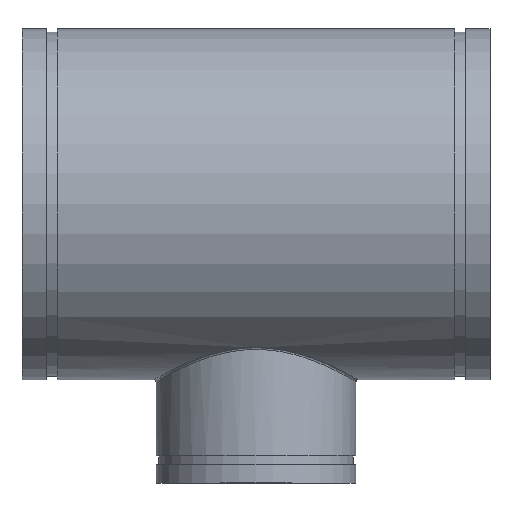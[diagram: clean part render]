
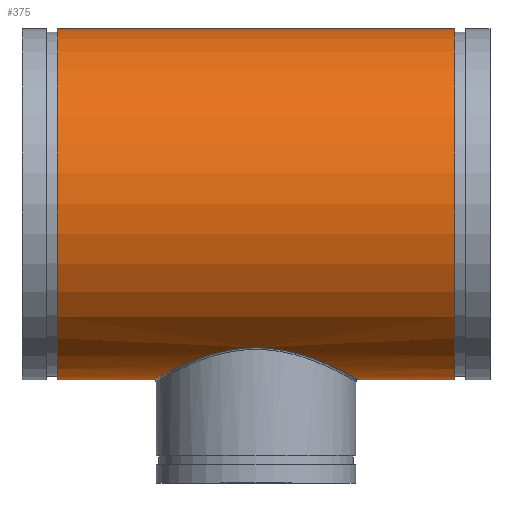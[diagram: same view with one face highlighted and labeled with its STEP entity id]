
A CAD part, top view. The second image highlights one B-rep face of the part: STEP entity #375.
In plain terms, the highlighted cylindrical face has radius 247.65 mm (diameter 495.3 mm), a full revolution.
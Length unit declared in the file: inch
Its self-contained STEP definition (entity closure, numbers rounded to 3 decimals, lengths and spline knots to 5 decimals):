
#54=FACE_BOUND('',#119,.T.);
#65=LINE('',#861,#76);
#76=VECTOR('',#483,9.75);
#87=CYLINDRICAL_SURFACE('',#415,9.75);
#98=FACE_OUTER_BOUND('',#118,.T.);
#118=EDGE_LOOP('',(#266,#267,#268,#269));
#119=EDGE_LOOP('',(#270));
#150=B_SPLINE_CURVE_WITH_KNOTS('',3,(#823,#824,#825,#826,#827,#828,#829,
#830,#831,#832,#833,#834,#835,#836,#837,#838,#839,#840,#841,#842,#843,#844,
#845,#846,#847,#848,#849,#850,#851,#852,#853,#854,#855,#856),
 .UNSPECIFIED.,.T.,.F.,(4,1,1,1,1,1,1,1,1,1,1,1,1,1,1,1,1,1,1,1,1,1,1,1,
1,1,1,1,1,1,1,4),(-87.32386,-84.20515,-81.08644,
-77.96773,-74.84902,-70.69074,-67.57203,
-66.53246,-64.45332,-62.37418,-58.21591,
-54.05763,-49.89935,-45.74107,-43.66193,
-41.58279,-39.50365,-37.42451,-33.26623,
-29.10795,-27.02881,-24.94967,-22.87053,
-21.83096,-21.31118,-20.79139,-16.63312,
-12.47484,-9.35613,-6.23742,-3.11871,
0.),.UNSPECIFIED.);
#154=CIRCLE('',#416,9.75);
#155=CIRCLE('',#417,9.75);
#182=VERTEX_POINT('',#781);
#185=VERTEX_POINT('',#858);
#186=VERTEX_POINT('',#860);
#219=EDGE_CURVE('',#182,#182,#150,.T.);
#220=EDGE_CURVE('',#185,#185,#154,.T.);
#221=EDGE_CURVE('',#185,#186,#65,.T.);
#222=EDGE_CURVE('',#186,#186,#155,.T.);
#266=ORIENTED_EDGE('',*,*,#220,.T.);
#267=ORIENTED_EDGE('',*,*,#221,.T.);
#268=ORIENTED_EDGE('',*,*,#222,.T.);
#269=ORIENTED_EDGE('',*,*,#221,.F.);
#270=ORIENTED_EDGE('',*,*,#219,.F.);
#375=ADVANCED_FACE('',(#98,#54),#87,.T.);
#415=AXIS2_PLACEMENT_3D('',#857,#479,#480);
#416=AXIS2_PLACEMENT_3D('',#859,#481,#482);
#417=AXIS2_PLACEMENT_3D('',#862,#484,#485);
#479=DIRECTION('center_axis',(-1.,0.,0.));
#480=DIRECTION('ref_axis',(0.,-1.,0.));
#481=DIRECTION('center_axis',(1.,0.,0.));
#482=DIRECTION('ref_axis',(0.,-1.,0.));
#483=DIRECTION('',(1.,0.,0.));
#484=DIRECTION('center_axis',(-1.,0.,0.));
#485=DIRECTION('ref_axis',(0.,-1.,0.));
#781=CARTESIAN_POINT('',(0.,-7.97916,-5.60316));
#823=CARTESIAN_POINT('Ctrl Pts',(0.,-7.97916,
-5.60316));
#824=CARTESIAN_POINT('Ctrl Pts',(0.4349,-7.97916,-5.60316));
#825=CARTESIAN_POINT('Ctrl Pts',(1.30417,-8.05063,-5.50318));
#826=CARTESIAN_POINT('Ctrl Pts',(2.51207,-8.33296,-5.07574));
#827=CARTESIAN_POINT('Ctrl Pts',(3.57207,-8.70914,-4.41137));
#828=CARTESIAN_POINT('Ctrl Pts',(4.55534,-9.14789,-3.44453));
#829=CARTESIAN_POINT('Ctrl Pts',(5.27393,-9.52482,-2.2403));
#830=CARTESIAN_POINT('Ctrl Pts',(5.58096,-9.69677,-1.13955));
#831=CARTESIAN_POINT('Ctrl Pts',(5.68046,-9.75311,-0.28735));
#832=CARTESIAN_POINT('Ctrl Pts',(5.6805,-9.75299,0.43085));
#833=CARTESIAN_POINT('Ctrl Pts',(5.50338,-9.65311,1.56312));
#834=CARTESIAN_POINT('Ctrl Pts',(4.96566,-9.35607,2.87934));
#835=CARTESIAN_POINT('Ctrl Pts',(3.91115,-8.84312,4.16842));
#836=CARTESIAN_POINT('Ctrl Pts',(2.53201,-8.32045,5.10643));
#837=CARTESIAN_POINT('Ctrl Pts',(1.16052,-8.02548,5.53716));
#838=CARTESIAN_POINT('Ctrl Pts',(-0.00027,-7.96371,
5.62519));
#839=CARTESIAN_POINT('Ctrl Pts',(-0.86959,-8.01033,5.55903));
#840=CARTESIAN_POINT('Ctrl Pts',(-1.70976,-8.14303,5.36512));
#841=CARTESIAN_POINT('Ctrl Pts',(-2.76124,-8.40787,4.94983));
#842=CARTESIAN_POINT('Ctrl Pts',(-3.91156,-8.84297,4.1688));
#843=CARTESIAN_POINT('Ctrl Pts',(-4.78963,-9.27046,3.09392));
#844=CARTESIAN_POINT('Ctrl Pts',(-5.28852,-9.53458,2.09002));
#845=CARTESIAN_POINT('Ctrl Pts',(-5.54749,-9.67784,1.27984));
#846=CARTESIAN_POINT('Ctrl Pts',(-5.65834,-9.74053,0.57255));
#847=CARTESIAN_POINT('Ctrl Pts',(-5.67779,-9.7516,0.07158));
#848=CARTESIAN_POINT('Ctrl Pts',(-5.67218,-9.74838,-0.21465));
#849=CARTESIAN_POINT('Ctrl Pts',(-5.63104,-9.72525,-0.92916));
#850=CARTESIAN_POINT('Ctrl Pts',(-5.34602,-9.56272,-2.12005));
#851=CARTESIAN_POINT('Ctrl Pts',(-4.55527,-9.14781,-3.44441));
#852=CARTESIAN_POINT('Ctrl Pts',(-3.57211,-8.70918,-4.41142));
#853=CARTESIAN_POINT('Ctrl Pts',(-2.51199,-8.33292,-5.07575));
#854=CARTESIAN_POINT('Ctrl Pts',(-1.3042,-8.05065,-5.50319));
#855=CARTESIAN_POINT('Ctrl Pts',(-0.4349,-7.97916,-5.60316));
#856=CARTESIAN_POINT('Ctrl Pts',(0.,-7.97916,
-5.60316));
#857=CARTESIAN_POINT('Origin',(13.,0.,0.));
#858=CARTESIAN_POINT('',(-11.035,9.75,0.));
#859=CARTESIAN_POINT('Origin',(-11.035,0.,0.));
#860=CARTESIAN_POINT('',(11.035,9.75,0.));
#861=CARTESIAN_POINT('',(13.,9.75,0.));
#862=CARTESIAN_POINT('Origin',(11.035,0.,0.));
